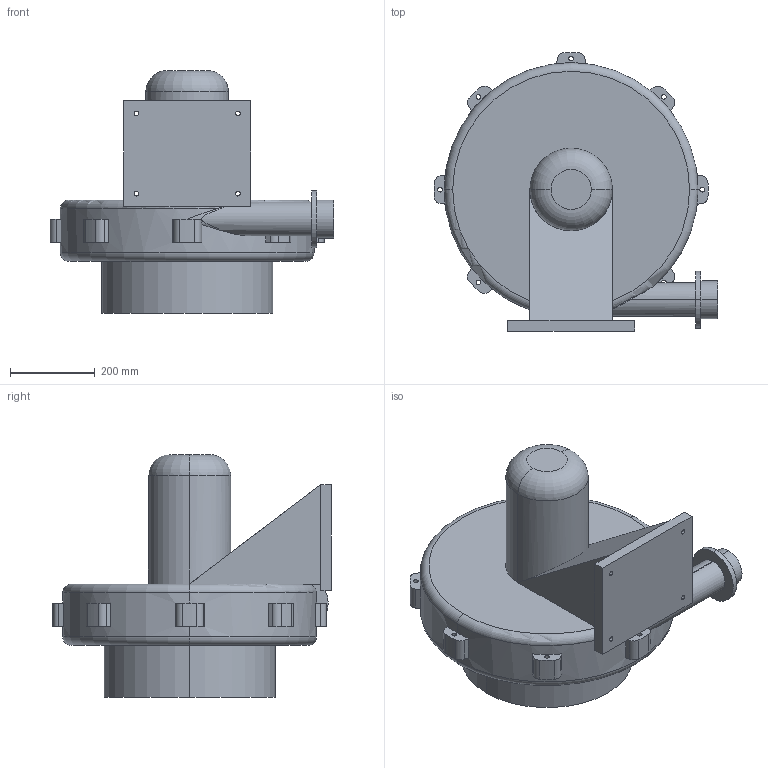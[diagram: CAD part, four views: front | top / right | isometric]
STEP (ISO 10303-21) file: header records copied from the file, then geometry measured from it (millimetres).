
FILE_DESCRIPTION (( 'STEP AP203' ), '1' );
FILE_NAME ('3700-65-3.STEP', '2019-05-09T03:28:17', ( 'User' ), ( 'www.dadighost.com' ), 'SwSTEP 2.0', 'SolidWorks 2014', '' );
FILE_SCHEMA (( 'CONFIG_CONTROL_DESIGN' ));
Length unit declared in the file: millimetre
Products named in the file (1): 3700-65-3
Bounding box: 670.95 x 658.95 x 574 mm (x, y, z)
Volume: 74754862.1 mm3; surface area: 1529137.9 mm2
Topology: 1 solids, 1 shells, 129 faces, 346 edges, 226 vertices
Faces by surface type: cylinder 69, plane 53, torus 7
Entity records: 4634 total; most frequent: CARTESIAN_POINT 1168, DIRECTION 749, ORIENTED_EDGE 692, EDGE_CURVE 346, AXIS2_PLACEMENT_3D 296, VERTEX_POINT 226, CIRCLE 166, EDGE_LOOP 160
